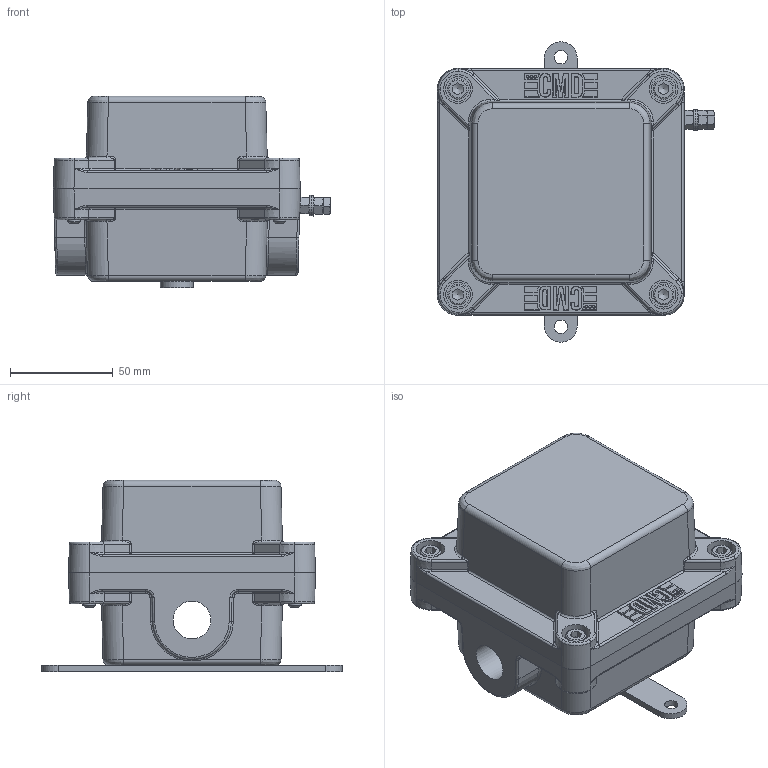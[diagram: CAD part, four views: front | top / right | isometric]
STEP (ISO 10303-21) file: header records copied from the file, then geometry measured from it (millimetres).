
FILE_DESCRIPTION(('STEP AP214'), '1');
FILE_NAME('ﾑﾌﾄ 640000 413 000 _ ﾏﾊﾂ ﾌﾊ ﾒ韵-1 Exd', '', ('UNSPECIFIED'), ('UNSPECIFIED'), 'ASCON STEP Converter 1.3', 'ASCON Math Kernel', '');
FILE_SCHEMA(('AUTOMOTIVE_DESIGN { 1 0 10303 214 3 1 1}'));
Length unit declared in the file: millimetre
Products named in the file (15): ﾑﾌﾄ 640000 413 000 ﾑﾁ; ﾑﾌﾄ 640000 413 001; ﾑﾌﾄ 640000 413 002; ﾑﾌﾄ 640000 413 003
Assembly tree (30 placements, depth 2):
  ﾑﾌﾄ 640000 413 000 ﾑﾁ
    ﾑﾌﾄ 640000 413 001
    ﾑﾌﾄ 640000 413 002
    ﾑﾌﾄ 640000 413 003
    (unnamed)
    (unnamed)
    (unnamed)
    (unnamed)  x2
    (unnamed)  x2
    (unnamed)  x2
    (unnamed)  x4
    (unnamed)  x2
    (unnamed)  x4
    (unnamed)  x4
    (unnamed)  x4
Bounding box: 134.76 x 146 x 93 mm (x, y, z)
Volume: 479728.3 mm3; surface area: 126358.6 mm2
Topology: 30 solids, 30 shells, 1322 faces, 3403 edges, 2159 vertices
Faces by surface type: plane 617, bspline 380, cylinder 241, torus 43, cone 39, sphere 2
Full cylindrical faces by diameter (mm): 3.242 x2, 4 x2, 4.134 x5, 4.5 x4, 4.917 x4, 5 x3, 5.2 x2, 5.5 x2, 6 x4, 6.5 x6, 6.6 x4, 8 x2, 9 x4, 9.2 x2, 10 x6, 12 x4, 14 x4, 18.376 x2
Entity records: 70437 total; most frequent: CARTESIAN_POINT 33721, ORIENTED_EDGE 5992, DIRECTION 4173, EDGE_CURVE 2996, VERTEX_POINT 1941, LINE 1715, VECTOR 1715, EDGE_LOOP 1321
